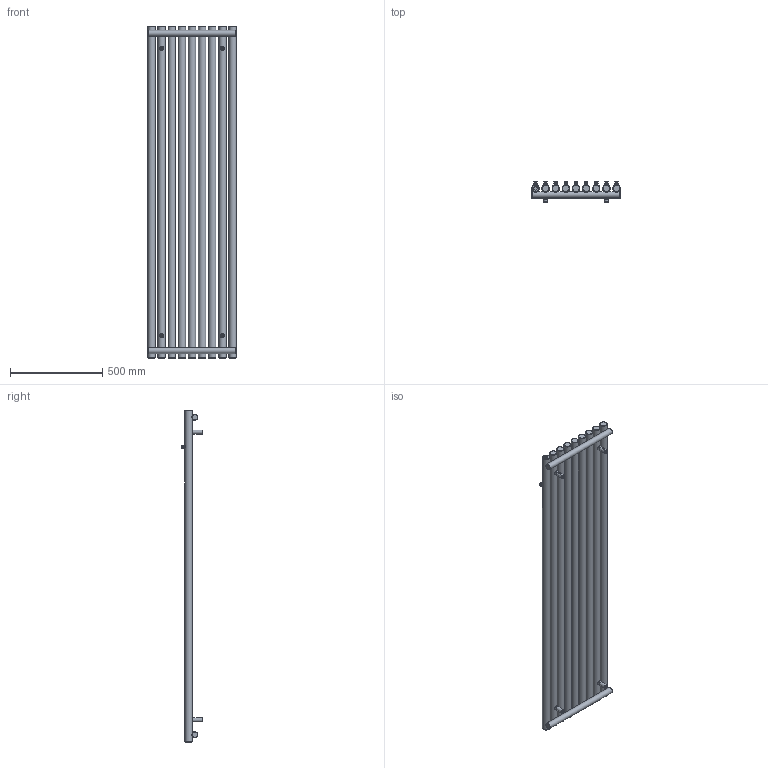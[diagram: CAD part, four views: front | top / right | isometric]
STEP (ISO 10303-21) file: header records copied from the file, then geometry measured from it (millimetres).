
FILE_DESCRIPTION(/* description */ (''),/* implementation_level */ '2;1');
FILE_NAME(/* name */ 'Z:\R\G\P\RGP116 - Grzejniki Geyser\Work\Inventor\Circolo (Rolo V, Rolo H)\ROLO-HANGER\Marketing\Bryły\Zaokrąglone\WGROW180048-SX-CK-(Z).stp',/* time_stamp */ '2024-02-02T13:23:04+01:00',/* author */ ('NowAd'),/* organization */ (''),/* preprocessor_version */ 'ST-DEVELOPER v17.2',/* originating_system */ 'Autodesk Inventor 2019',/* authorisation */ '');
FILE_SCHEMA (('AUTOMOTIVE_DESIGN { 1 0 10303 214 3 1 1 }'));
Length unit declared in the file: millimetre
Products named in the file (3): WGROR180048-SX-CK-(Z); PGROR180048-SX-CK-(K); CK-V-fi40 marketing
Assembly tree (5 placements, depth 2):
  WGROR180048-SX-CK-(Z)
    PGROR180048-SX-CK-(K)
    CK-V-fi40 marketing  x4
Bounding box: 480 x 116.5 x 1800 mm (x, y, z)
Volume: 21210156.5 mm3; surface area: 2190772.8 mm2
Topology: 5 solids, 5 shells, 455 faces, 1152 edges, 785 vertices
Faces by surface type: plane 168, cylinder 105, torus 95, cone 60, bspline 27
Full cylindrical faces by diameter (mm): 4.134 x4, 4.48 x4, 6.4 x4, 10 x4, 12 x4, 14 x9, 15.834 x4, 16 x4, 18.631 x3, 20 x18, 22 x4, 32 x2, 40 x9
Entity records: 13842 total; most frequent: CARTESIAN_POINT 6979, DIRECTION 1515, ORIENTED_EDGE 1360, AXIS2_PLACEMENT_3D 700, EDGE_CURVE 680, VERTEX_POINT 476, CIRCLE 439, EDGE_LOOP 354
